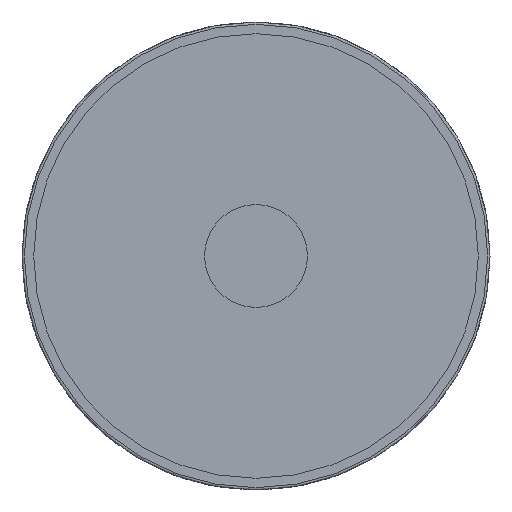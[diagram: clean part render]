
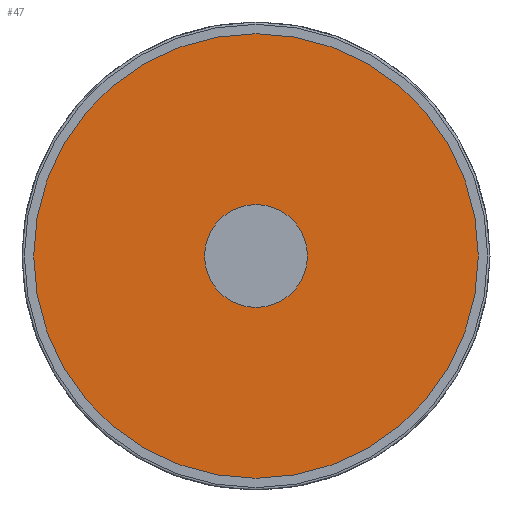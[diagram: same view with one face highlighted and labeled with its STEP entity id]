
A CAD part, left-side view. The second image highlights one B-rep face of the part: STEP entity #47.
In plain terms, the highlighted planar face has unit normal (-1, 0, 0).
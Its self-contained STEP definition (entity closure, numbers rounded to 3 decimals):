
#2=CARTESIAN_POINT('',(-522.636,-393.109,95.));
#3=DIRECTION('',(1.0,0.0,0.0));
#4=DIRECTION('',(0.0,-1.0,0.0));
#5=AXIS2_PLACEMENT_3D('',#2,#3,#4);
#6=PLANE('',#5);
#7=CARTESIAN_POINT('',(-522.636,-488.109,-47.5));
#8=VERTEX_POINT('',#7);
#9=CARTESIAN_POINT('',(-522.636,-488.109,47.5));
#10=VERTEX_POINT('',#9);
#11=CARTESIAN_POINT('',(-522.636,-488.109,0.));
#12=DIRECTION('',(-1.0,0.0,0.));
#13=DIRECTION('',(0.,0.0,-1.0));
#14=AXIS2_PLACEMENT_3D('',#11,#12,#13);
#15=CIRCLE('',#14,47.5);
#16=EDGE_CURVE('',#8,#10,#15,.T.);
#17=ORIENTED_EDGE('',*,*,#16,.T.);
#18=CARTESIAN_POINT('',(-522.636,-488.109,0.));
#19=DIRECTION('',(-1.0,0.0,0.));
#20=DIRECTION('',(0.,0.0,-1.0));
#21=AXIS2_PLACEMENT_3D('',#18,#19,#20);
#22=CIRCLE('',#21,47.5);
#23=EDGE_CURVE('',#10,#8,#22,.T.);
#24=ORIENTED_EDGE('',*,*,#23,.T.);
#25=EDGE_LOOP('',(#17,#24));
#26=FACE_OUTER_BOUND('',#25,.T.);
#27=CARTESIAN_POINT('',(-522.636,-488.109,11.));
#28=VERTEX_POINT('',#27);
#29=CARTESIAN_POINT('',(-522.636,-488.109,-11.));
#30=VERTEX_POINT('',#29);
#31=CARTESIAN_POINT('',(-522.636,-488.109,0.0));
#32=DIRECTION('',(-1.0,0.0,0.0));
#33=DIRECTION('',(0.0,0.0,-1.0));
#34=AXIS2_PLACEMENT_3D('',#31,#32,#33);
#35=CIRCLE('',#34,11.);
#36=EDGE_CURVE('',#28,#30,#35,.T.);
#37=ORIENTED_EDGE('',*,*,#36,.F.);
#38=CARTESIAN_POINT('',(-522.636,-488.109,0.0));
#39=DIRECTION('',(-1.0,0.0,0.0));
#40=DIRECTION('',(0.0,0.0,-1.0));
#41=AXIS2_PLACEMENT_3D('',#38,#39,#40);
#42=CIRCLE('',#41,11.);
#43=EDGE_CURVE('',#30,#28,#42,.T.);
#44=ORIENTED_EDGE('',*,*,#43,.F.);
#45=EDGE_LOOP('',(#37,#44));
#46=FACE_BOUND('',#45,.T.);
#47=ADVANCED_FACE('',(#26,#46),#6,.F.);
